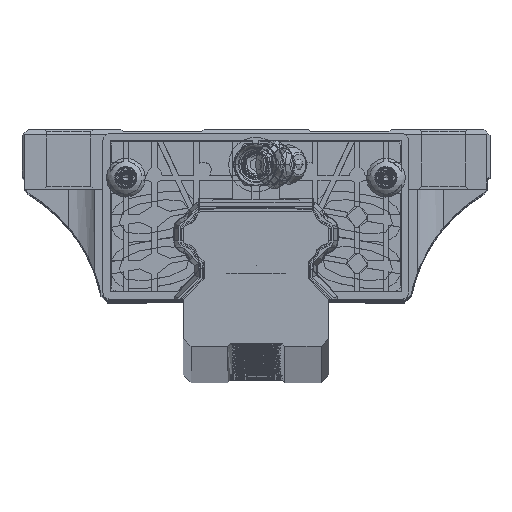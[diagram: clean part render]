
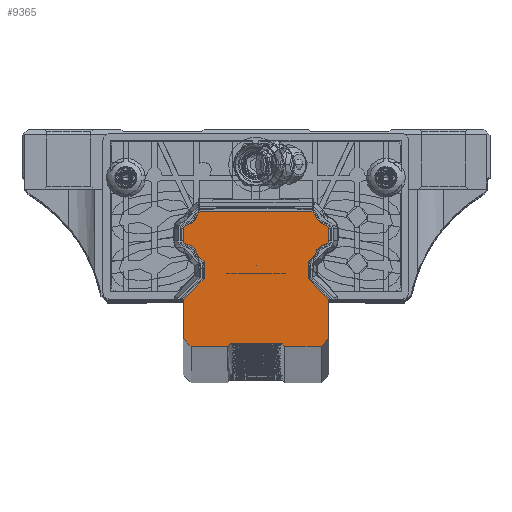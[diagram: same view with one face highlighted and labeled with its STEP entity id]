
A CAD part, top view. The second image highlights one B-rep face of the part: STEP entity #9365.
In plain terms, the highlighted planar face has unit normal (0, 0, 1).
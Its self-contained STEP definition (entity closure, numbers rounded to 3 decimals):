
#17=DIRECTION('',(0.,-1.,0.));
#18=VECTOR('',#17,3.285);
#19=CARTESIAN_POINT('',(-10.,-5.215,500.));
#20=LINE('',#19,#18);
#33=DIRECTION('',(0.,-1.,0.));
#34=VECTOR('',#33,7.5);
#35=CARTESIAN_POINT('',(-14.,-12.5,500.));
#36=LINE('',#35,#34);
#49=DIRECTION('',(1.,0.,0.));
#50=VECTOR('',#49,7.);
#51=CARTESIAN_POINT('',(-12.5,-21.5,500.));
#52=LINE('',#51,#50);
#858=DIRECTION('',(0.,-1.,0.));
#859=VECTOR('',#858,2.308);
#860=CARTESIAN_POINT('',(-14.,1.154,500.));
#861=LINE('',#860,#859);
#3449=CARTESIAN_POINT('',(5.,-21.,500.));
#3476=CARTESIAN_POINT('',(-14.086,-4.586,500.));
#3477=DIRECTION('',(0.,0.,1.));
#3478=DIRECTION('',(0.976,0.216,0.));
#3479=AXIS2_PLACEMENT_3D('',#3476,#3477,#3478);
#3481=CARTESIAN_POINT('',(-13.4,-1.154,500.));
#3482=DIRECTION('',(0.,0.,-1.));
#3483=DIRECTION('',(-0.196,-0.981,0.));
#3484=AXIS2_PLACEMENT_3D('',#3481,#3482,#3483);
#3486=CARTESIAN_POINT('',(-13.4,1.154,500.));
#3487=DIRECTION('',(0.,0.,-1.));
#3488=DIRECTION('',(-1.,0.,0.));
#3489=AXIS2_PLACEMENT_3D('',#3486,#3487,#3488);
#3491=CARTESIAN_POINT('',(-14.086,4.586,500.));
#3492=DIRECTION('',(0.,0.,1.));
#3493=DIRECTION('',(0.196,-0.981,0.));
#3494=AXIS2_PLACEMENT_3D('',#3491,#3492,#3493);
#3496=DIRECTION('',(0.707,0.707,0.));
#3497=VECTOR('',#3496,0.79);
#3498=CARTESIAN_POINT('',(-11.259,3.941,500.));
#3499=LINE('',#3498,#3497);
#3500=DIRECTION('',(1.,0.,0.));
#3501=VECTOR('',#3500,21.4);
#3502=CARTESIAN_POINT('',(-10.7,4.5,500.));
#3503=LINE('',#3502,#3501);
#3504=DIRECTION('',(0.707,-0.707,0.));
#3505=VECTOR('',#3504,0.79);
#3506=CARTESIAN_POINT('',(10.7,4.5,500.));
#3507=LINE('',#3506,#3505);
#3508=CARTESIAN_POINT('',(14.086,4.586,500.));
#3509=DIRECTION('',(0.,0.,1.));
#3510=DIRECTION('',(-0.975,-0.222,0.));
#3511=AXIS2_PLACEMENT_3D('',#3508,#3509,#3510);
#3513=CARTESIAN_POINT('',(13.4,1.154,500.));
#3514=DIRECTION('',(0.,0.,-1.));
#3515=DIRECTION('',(0.196,0.981,0.));
#3516=AXIS2_PLACEMENT_3D('',#3513,#3514,#3515);
#3518=CARTESIAN_POINT('',(13.4,-1.154,500.));
#3519=DIRECTION('',(0.,0.,-1.));
#3520=DIRECTION('',(1.,0.,0.));
#3521=AXIS2_PLACEMENT_3D('',#3518,#3519,#3520);
#3523=CARTESIAN_POINT('',(14.086,-4.586,500.));
#3524=DIRECTION('',(0.,0.,1.));
#3525=DIRECTION('',(-0.196,0.981,0.));
#3526=AXIS2_PLACEMENT_3D('',#3523,#3524,#3525);
#3528=DIRECTION('',(-0.707,-0.707,0.));
#3529=VECTOR('',#3528,1.774);
#3530=CARTESIAN_POINT('',(11.254,-3.961,500.));
#3531=LINE('',#3530,#3529);
#3532=DIRECTION('',(0.707,-0.707,0.));
#3533=VECTOR('',#3532,5.657);
#3534=CARTESIAN_POINT('',(10.,-8.5,500.));
#3535=LINE('',#3534,#3533);
#3536=DIRECTION('',(-0.707,-0.707,0.));
#3537=VECTOR('',#3536,2.121);
#3538=CARTESIAN_POINT('',(14.,-20.,500.));
#3539=LINE('',#3538,#3537);
#3540=DIRECTION('',(-0.707,0.707,0.));
#3541=VECTOR('',#3540,0.707);
#3542=CARTESIAN_POINT('',(5.5,-21.5,500.));
#3543=LINE('',#3542,#3541);
#3544=DIRECTION('',(-1.,0.,0.));
#3545=VECTOR('',#3544,10.);
#3546=CARTESIAN_POINT('',(5.,-21.,500.));
#3547=LINE('',#3546,#3545);
#3548=DIRECTION('',(-0.707,-0.707,0.));
#3549=VECTOR('',#3548,0.707);
#3550=CARTESIAN_POINT('',(-5.,-21.,500.));
#3551=LINE('',#3550,#3549);
#3552=DIRECTION('',(-0.707,0.707,0.));
#3553=VECTOR('',#3552,2.121);
#3554=CARTESIAN_POINT('',(-12.5,-21.5,500.));
#3555=LINE('',#3554,#3553);
#3556=DIRECTION('',(0.707,0.707,0.));
#3557=VECTOR('',#3556,5.657);
#3558=CARTESIAN_POINT('',(-14.,-12.5,500.));
#3559=LINE('',#3558,#3557);
#3560=DIRECTION('',(-0.707,0.707,0.));
#3561=VECTOR('',#3560,1.774);
#3562=CARTESIAN_POINT('',(-10.,-5.215,500.));
#3563=LINE('',#3562,#3561);
#3588=DIRECTION('',(0.,1.,0.));
#3589=VECTOR('',#3588,2.308);
#3590=CARTESIAN_POINT('',(14.,-1.154,500.));
#3591=LINE('',#3590,#3589);
#3612=DIRECTION('',(0.,1.,0.));
#3613=VECTOR('',#3612,3.285);
#3614=CARTESIAN_POINT('',(10.,-8.5,500.));
#3615=LINE('',#3614,#3613);
#3628=DIRECTION('',(0.,1.,0.));
#3629=VECTOR('',#3628,7.5);
#3630=CARTESIAN_POINT('',(14.,-20.,500.));
#3631=LINE('',#3630,#3629);
#3644=DIRECTION('',(1.,0.,0.));
#3645=VECTOR('',#3644,7.);
#3646=CARTESIAN_POINT('',(5.5,-21.5,500.));
#3647=LINE('',#3646,#3645);
#4020=CARTESIAN_POINT('',(-11.254,-3.961,500.));
#4022=VERTEX_POINT('',#4020);
#4026=CARTESIAN_POINT('',(-13.518,-1.742,500.));
#4027=VERTEX_POINT('',#4026);
#4028=CARTESIAN_POINT('',(-10.,-5.215,500.));
#4030=VERTEX_POINT('',#4028);
#4032=CARTESIAN_POINT('',(-10.,-8.5,500.));
#4034=VERTEX_POINT('',#4032);
#4036=CARTESIAN_POINT('',(-14.,-12.5,500.));
#4038=VERTEX_POINT('',#4036);
#4040=CARTESIAN_POINT('',(-14.,-20.,500.));
#4042=VERTEX_POINT('',#4040);
#4044=CARTESIAN_POINT('',(-12.5,-21.5,500.));
#4046=VERTEX_POINT('',#4044);
#4048=CARTESIAN_POINT('',(-5.5,-21.5,500.));
#4050=VERTEX_POINT('',#4048);
#4069=CARTESIAN_POINT('',(-5.,-21.,500.));
#4070=VERTEX_POINT('',#4069);
#4161=CARTESIAN_POINT('',(-10.7,4.5,500.));
#4163=VERTEX_POINT('',#4161);
#4166=CARTESIAN_POINT('',(10.7,4.5,500.));
#4167=VERTEX_POINT('',#4166);
#4365=CARTESIAN_POINT('',(-11.259,3.941,500.));
#4367=VERTEX_POINT('',#4365);
#4368=CARTESIAN_POINT('',(-13.518,1.742,500.));
#4370=VERTEX_POINT('',#4368);
#4372=CARTESIAN_POINT('',(-14.,1.154,500.));
#4374=VERTEX_POINT('',#4372);
#4377=CARTESIAN_POINT('',(-14.,-1.154,500.));
#4379=VERTEX_POINT('',#4377);
#4566=VERTEX_POINT('',#3449);
#4567=CARTESIAN_POINT('',(5.5,-21.5,500.));
#4568=VERTEX_POINT('',#4567);
#4845=CARTESIAN_POINT('',(11.259,3.941,500.));
#4846=VERTEX_POINT('',#4845);
#4847=CARTESIAN_POINT('',(13.518,1.742,500.));
#4848=VERTEX_POINT('',#4847);
#4849=CARTESIAN_POINT('',(14.,1.154,500.));
#4850=VERTEX_POINT('',#4849);
#4851=CARTESIAN_POINT('',(14.,-1.154,500.));
#4852=VERTEX_POINT('',#4851);
#4853=CARTESIAN_POINT('',(13.518,-1.742,500.));
#4854=VERTEX_POINT('',#4853);
#4855=CARTESIAN_POINT('',(11.254,-3.961,500.));
#4856=VERTEX_POINT('',#4855);
#4857=CARTESIAN_POINT('',(10.,-5.215,500.));
#4858=VERTEX_POINT('',#4857);
#4859=CARTESIAN_POINT('',(10.,-8.5,500.));
#4860=VERTEX_POINT('',#4859);
#4861=CARTESIAN_POINT('',(14.,-12.5,500.));
#4862=VERTEX_POINT('',#4861);
#4863=CARTESIAN_POINT('',(14.,-20.,500.));
#4864=VERTEX_POINT('',#4863);
#4865=CARTESIAN_POINT('',(12.5,-21.5,500.));
#4866=VERTEX_POINT('',#4865);
#9318=CARTESIAN_POINT('',(0.,0.,500.));
#9319=DIRECTION('',(0.,0.,1.));
#9320=DIRECTION('',(1.,0.,0.));
#9321=AXIS2_PLACEMENT_3D('',#9318,#9319,#9320);
#9322=PLANE('',#9321);
#9323=ORIENTED_EDGE('',*,*,#4926,.T.);
#9324=ORIENTED_EDGE('',*,*,#5592,.T.);
#9325=ORIENTED_EDGE('',*,*,#5578,.F.);
#9326=ORIENTED_EDGE('',*,*,#5563,.T.);
#9327=ORIENTED_EDGE('',*,*,#5548,.T.);
#9328=ORIENTED_EDGE('',*,*,#5533,.T.);
#9329=ORIENTED_EDGE('',*,*,#5220,.T.);
#9331=ORIENTED_EDGE('',*,*,#9330,.T.);
#9333=ORIENTED_EDGE('',*,*,#9332,.T.);
#9335=ORIENTED_EDGE('',*,*,#9334,.T.);
#9337=ORIENTED_EDGE('',*,*,#9336,.F.);
#9339=ORIENTED_EDGE('',*,*,#9338,.T.);
#9341=ORIENTED_EDGE('',*,*,#9340,.T.);
#9343=ORIENTED_EDGE('',*,*,#9342,.T.);
#9345=ORIENTED_EDGE('',*,*,#9344,.F.);
#9347=ORIENTED_EDGE('',*,*,#9346,.T.);
#9349=ORIENTED_EDGE('',*,*,#9348,.F.);
#9351=ORIENTED_EDGE('',*,*,#9350,.T.);
#9353=ORIENTED_EDGE('',*,*,#9352,.F.);
#9354=ORIENTED_EDGE('',*,*,#6496,.T.);
#9355=ORIENTED_EDGE('',*,*,#9307,.T.);
#9356=ORIENTED_EDGE('',*,*,#5049,.T.);
#9357=ORIENTED_EDGE('',*,*,#5016,.F.);
#9358=ORIENTED_EDGE('',*,*,#5001,.T.);
#9359=ORIENTED_EDGE('',*,*,#4986,.F.);
#9360=ORIENTED_EDGE('',*,*,#4971,.T.);
#9361=ORIENTED_EDGE('',*,*,#4956,.F.);
#9362=ORIENTED_EDGE('',*,*,#4941,.T.);
#9363=EDGE_LOOP('',(#9323,#9324,#9325,#9326,#9327,#9328,#9329,#9331,#9333,#9335,
#9337,#9339,#9341,#9343,#9345,#9347,#9349,#9351,#9353,#9354,#9355,#9356,#9357,
#9358,#9359,#9360,#9361,#9362));
#9364=FACE_OUTER_BOUND('',#9363,.F.);
#9365=ADVANCED_FACE('',(#9364),#9322,.T.);
#3480=CIRCLE('',#3479,2.9);
#3485=CIRCLE('',#3484,0.6);
#3490=CIRCLE('',#3489,0.6);
#3495=CIRCLE('',#3494,2.9);
#3512=CIRCLE('',#3511,2.9);
#3517=CIRCLE('',#3516,0.6);
#3522=CIRCLE('',#3521,0.6);
#3527=CIRCLE('',#3526,2.9);
#4926=EDGE_CURVE('',#4022,#4027,#3480,.T.);
#4941=EDGE_CURVE('',#4030,#4022,#3563,.T.);
#4956=EDGE_CURVE('',#4030,#4034,#20,.T.);
#4971=EDGE_CURVE('',#4038,#4034,#3559,.T.);
#4986=EDGE_CURVE('',#4038,#4042,#36,.T.);
#5001=EDGE_CURVE('',#4046,#4042,#3555,.T.);
#5016=EDGE_CURVE('',#4046,#4050,#52,.T.);
#5049=EDGE_CURVE('',#4070,#4050,#3551,.T.);
#5220=EDGE_CURVE('',#4163,#4167,#3503,.T.);
#5533=EDGE_CURVE('',#4367,#4163,#3499,.T.);
#5548=EDGE_CURVE('',#4370,#4367,#3495,.T.);
#5563=EDGE_CURVE('',#4374,#4370,#3490,.T.);
#5578=EDGE_CURVE('',#4374,#4379,#861,.T.);
#5592=EDGE_CURVE('',#4027,#4379,#3485,.T.);
#6496=EDGE_CURVE('',#4568,#4566,#3543,.T.);
#9307=EDGE_CURVE('',#4566,#4070,#3547,.T.);
#9330=EDGE_CURVE('',#4167,#4846,#3507,.T.);
#9332=EDGE_CURVE('',#4846,#4848,#3512,.T.);
#9334=EDGE_CURVE('',#4848,#4850,#3517,.T.);
#9336=EDGE_CURVE('',#4852,#4850,#3591,.T.);
#9338=EDGE_CURVE('',#4852,#4854,#3522,.T.);
#9340=EDGE_CURVE('',#4854,#4856,#3527,.T.);
#9342=EDGE_CURVE('',#4856,#4858,#3531,.T.);
#9344=EDGE_CURVE('',#4860,#4858,#3615,.T.);
#9346=EDGE_CURVE('',#4860,#4862,#3535,.T.);
#9348=EDGE_CURVE('',#4864,#4862,#3631,.T.);
#9350=EDGE_CURVE('',#4864,#4866,#3539,.T.);
#9352=EDGE_CURVE('',#4568,#4866,#3647,.T.);
